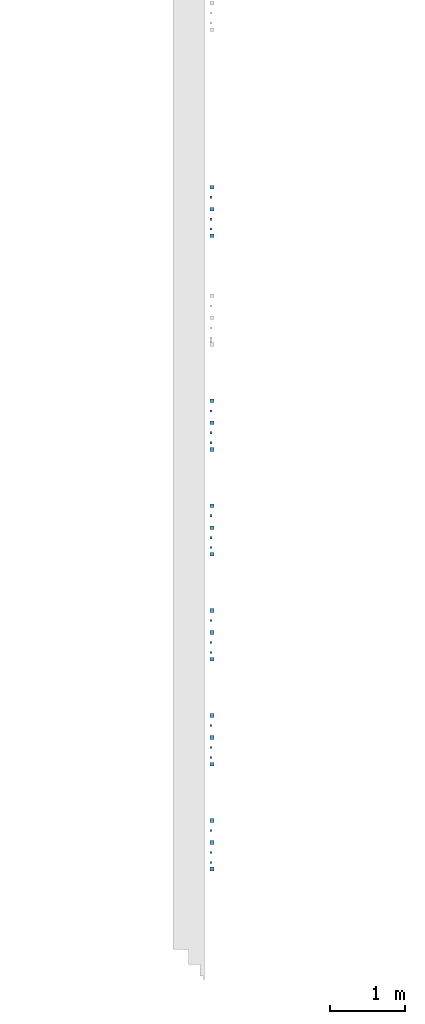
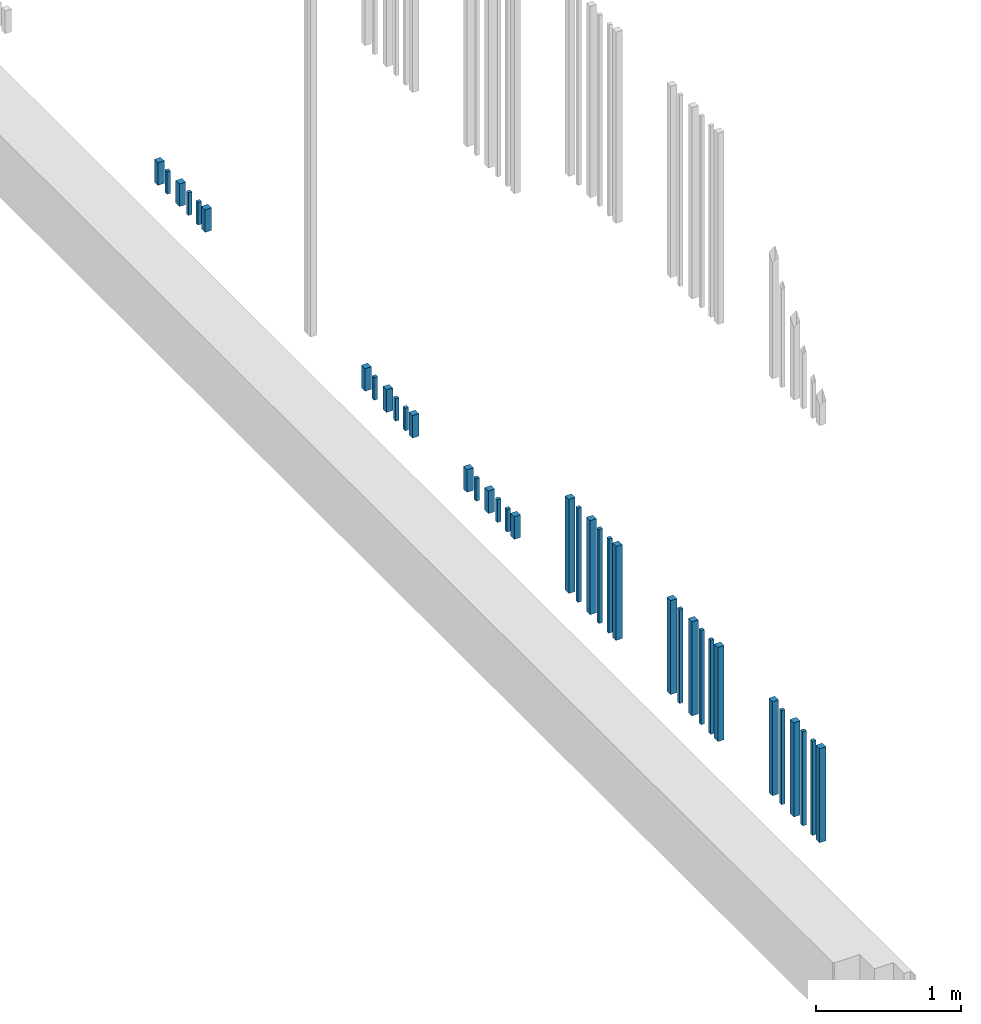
# One storey, part 84 of 124: 36 walls.
"""IFC2X3 building model written with IfcOpenShell, lengths in millimetres."""

from ifc_helpers import new_model, entity, si_unit, converted_unit, derived_unit, money_unit, direction, frame, origin_with_axes, place, context, subcontext, project, spatial, faceted_brep, material, type_object, element, save


model = new_model("IFC2X3")

# Units and contexts
model_context = context("Model", 3, precision=1e-05, world=origin_with_axes(), true_north=direction((0.0, 1.0)))
body_context = subcontext(model_context, "Body", "Model", "MODEL_VIEW")
ifc_project = project(units=[si_unit("LENGTHUNIT", "METRE", prefix="MILLI"), si_unit("AREAUNIT", "SQUARE_METRE"), si_unit("VOLUMEUNIT", "CUBIC_METRE"), converted_unit("PLANEANGLEUNIT", "DEGREE", entity("IfcPlaneAngleMeasure", 0.0174532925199), si_unit("PLANEANGLEUNIT", "RADIAN"), dimensions=[0, 0, 0, 0, 0, 0, 0]), si_unit("SOLIDANGLEUNIT", "STERADIAN"), money_unit("EUR"), converted_unit("TIMEUNIT", "Year", entity("IfcTimeMeasure", 31556926.0), si_unit("TIMEUNIT", "SECOND"), dimensions=[0, 0, 1, 0, 0, 0, 0]), si_unit("MASSUNIT", "GRAM", prefix="KILO"), si_unit("THERMODYNAMICTEMPERATUREUNIT", "DEGREE_CELSIUS"), si_unit("LUMINOUSINTENSITYUNIT", "LUMEN"), si_unit("ENERGYUNIT", "JOULE", prefix="MEGA"), derived_unit("THERMALCONDUCTANCEUNIT", [(si_unit("POWERUNIT", "WATT"), 1), (si_unit("LENGTHUNIT", "METRE"), -1), (si_unit("THERMODYNAMICTEMPERATUREUNIT", "KELVIN"), -1)]), derived_unit("SPECIFICHEATCAPACITYUNIT", [(si_unit("ENERGYUNIT", "JOULE"), 1), (si_unit("MASSUNIT", "GRAM", prefix="KILO"), -1), (si_unit("THERMODYNAMICTEMPERATUREUNIT", "KELVIN"), -1)]), derived_unit("MASSDENSITYUNIT", [(si_unit("MASSUNIT", "GRAM", prefix="KILO"), 1), (si_unit("VOLUMEUNIT", "CUBIC_METRE"), -1)])], contexts=[model_context])

# Site, building, storey
site_placement = place(None, origin_with_axes())
site = spatial("IfcSite", under=ifc_project, at=site_placement, Name="Site", CompositionType="ELEMENT")
building_placement = place(site_placement, origin_with_axes())
building = spatial("IfcBuilding", under=site, at=building_placement, Name="Building", CompositionType="ELEMENT")
storey_placement = place(building_placement, frame((0.0, 0.0, -1615.0), z_axis=(0.0, 0.0, 1.0), x_axis=(1.0, 0.0, 0.0)))
storey = spatial("IfcBuildingStorey", under=building, at=storey_placement, Name="0  korrus", CompositionType="ELEMENT", Elevation=-1615.0)

# Walls
ifc_material = material(Name="Site specified")
wall_type = type_object("IfcWallType", Name="Puitfassaadi ribistik", PredefinedType="NOTDEFINED")
for number, where, z_axis, x_axis, name in (
    (1, (139812.000011, 47180.8062682, 1715.00000015), (0.0, 0.0, 1.0), (5.16795808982e-08, -1.0, 0.0), "Site specified"),
    (2, (139811.999996, 48874.806266, 1715.00000015), (0.0, 0.0, 1.0), (5.16795808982e-08, -1.0, 0.0), "Site specified"),
):
    element("IfcWall", number, at=place(storey_placement, frame(where, z_axis=z_axis, x_axis=x_axis)), inside=storey, type_object=wall_type, material=ifc_material, Name=name, context=body_context, shape_type="Brep", body=[
        faceted_brep([(25.0, 25.0, 790.0), (25.0, 25.0, 0.0), (-25.0, 25.0, 0.0), (-25.0, 25.0, 790.0), (25.0, -25.0, 790.0), (25.0, -25.0, 0.0), (-25.0, -25.0, 0.0), (-25.0, -25.0, 790.0)], [[[0, 1, 2, 3]], [[4, 5, 1, 0]], [[2, 1, 5, 6]], [[3, 2, 6, 7]], [[4, 0, 3, 7]], [[7, 6, 5, 4]]]),
    ])
for number, where, z_axis, x_axis, name in (
    (3, (139801.000003, 48739.803775, 1715.00000015), (0.0, 0.0, 1.0), (5.16795808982e-08, -1.0, 0.0), "Site specified"),
    (4, (139801.000025, 48313.8038047, 1715.00000015), (0.0, 0.0, 1.0), (5.16795808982e-08, -1.0, 0.0), "Site specified"),
    (5, (139801.000018, 48446.8038039, 1715.00000015), (0.0, 0.0, 1.0), (5.16795808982e-08, -1.0, 0.0), "Site specified"),
):
    element("IfcWall", number, at=place(storey_placement, frame(where, z_axis=z_axis, x_axis=x_axis)), inside=storey, type_object=wall_type, material=ifc_material, Name=name, context=body_context, shape_type="Brep", body=[
        faceted_brep([(14.0, 14.0, 790.0), (14.0, 14.0, 0.0), (-14.0, 14.0, 0.0), (-14.0, 14.0, 790.0), (14.0, -14.0, 790.0), (14.0, -14.0, 0.0), (-14.0, -14.0, 0.0), (-14.0, -14.0, 790.0)], [[[0, 1, 2, 3]], [[4, 5, 1, 0]], [[2, 1, 5, 6]], [[3, 2, 6, 7]], [[4, 0, 3, 7]], [[7, 6, 5, 4]]]),
    ])
for number, where, z_axis, x_axis, name in (
    (6, (139812.00003, 48224.8006349, 1715.00000015), (0.0, 0.0, 1.0), (5.16795808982e-08, -1.0, 0.0), "Site specified"),
    (7, (139812.000011, 48580.8062682, 1715.00000015), (0.0, 0.0, 1.0), (5.16795808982e-08, -1.0, 0.0), "Site specified"),
    (8, (139811.999996, 50274.806266, 1715.00000015), (0.0, 0.0, 1.0), (5.16795808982e-08, -1.0, 0.0), "Site specified"),
):
    element("IfcWall", number, at=place(storey_placement, frame(where, z_axis=z_axis, x_axis=x_axis)), inside=storey, type_object=wall_type, material=ifc_material, Name=name, context=body_context, shape_type="Brep", body=[
        faceted_brep([(25.0, 25.0, 790.0), (25.0, 25.0, 0.0), (-25.0, 25.0, 0.0), (-25.0, 25.0, 790.0), (25.0, -25.0, 790.0), (25.0, -25.0, 0.0), (-25.0, -25.0, 0.0), (-25.0, -25.0, 790.0)], [[[0, 1, 2, 3]], [[4, 5, 1, 0]], [[2, 1, 5, 6]], [[3, 2, 6, 7]], [[4, 0, 3, 7]], [[7, 6, 5, 4]]]),
    ])
for number, where, z_axis, x_axis, name in (
    (9, (139801.000003, 50139.803775, 1715.00000015), (0.0, 0.0, 1.0), (5.16795808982e-08, -1.0, 0.0), "Site specified"),
    (10, (139801.000025, 49713.8038047, 1715.00000015), (0.0, 0.0, 1.0), (5.16795808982e-08, -1.0, 0.0), "Site specified"),
    (11, (139801.000018, 49846.8038039, 1715.00000015), (0.0, 0.0, 1.0), (5.16795808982e-08, -1.0, 0.0), "Site specified"),
):
    element("IfcWall", number, at=place(storey_placement, frame(where, z_axis=z_axis, x_axis=x_axis)), inside=storey, type_object=wall_type, material=ifc_material, Name=name, context=body_context, shape_type="Brep", body=[
        faceted_brep([(14.0, 14.0, 790.0), (14.0, 14.0, 0.0), (-14.0, 14.0, 0.0), (-14.0, 14.0, 790.0), (14.0, -14.0, 790.0), (14.0, -14.0, 0.0), (-14.0, -14.0, 0.0), (-14.0, -14.0, 790.0)], [[[0, 1, 2, 3]], [[4, 5, 1, 0]], [[2, 1, 5, 6]], [[3, 2, 6, 7]], [[4, 0, 3, 7]], [[7, 6, 5, 4]]]),
    ])
for number, where, z_axis, x_axis, name in (
    (12, (139812.000029, 49624.8006349, 1715.00000015), (0.0, 0.0, 1.0), (5.16795808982e-08, -1.0, 0.0), "Site specified"),
    (13, (139812.000011, 49980.8062682, 1715.00000015), (0.0, 0.0, 1.0), (5.16795808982e-08, -1.0, 0.0), "Site specified"),
):
    element("IfcWall", number, at=place(storey_placement, frame(where, z_axis=z_axis, x_axis=x_axis)), inside=storey, type_object=wall_type, material=ifc_material, Name=name, context=body_context, shape_type="Brep", body=[
        faceted_brep([(25.0, 25.0, 790.0), (25.0, 25.0, 0.0), (-25.0, 25.0, 0.0), (-25.0, 25.0, 790.0), (25.0, -25.0, 790.0), (25.0, -25.0, 0.0), (-25.0, -25.0, 0.0), (-25.0, -25.0, 790.0)], [[[0, 1, 2, 3]], [[4, 5, 1, 0]], [[2, 1, 5, 6]], [[3, 2, 6, 7]], [[4, 0, 3, 7]], [[7, 6, 5, 4]]]),
    ])
wall_1_placement = place(storey_placement, frame((139811.999995, 51674.806266, 1715.00000015), z_axis=(0.0, 0.0, 1.0), x_axis=(5.16795808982e-08, -1.0, 0.0)))
element("IfcWall", 14, at=wall_1_placement, inside=storey, type_object=wall_type, material=ifc_material, Name="Site specified", context=body_context, shape_type="Brep", body=[
    faceted_brep([(25.0, 25.0, 190.0), (25.0, 25.0, 0.0), (-25.0, 25.0, 0.0), (-25.0, 25.0, 190.0), (25.0, -25.0, 190.0), (25.0, -25.0, 0.0), (-25.0, -25.0, 0.0), (-25.0, -25.0, 190.0)], [[[0, 1, 2, 3]], [[4, 5, 1, 0]], [[2, 1, 5, 6]], [[3, 2, 6, 7]], [[4, 0, 3, 7]], [[7, 6, 5, 4]]]),
])
for number, where, z_axis, x_axis, name in (
    (15, (139801.000002, 51539.803775, 1715.00000015), (0.0, 0.0, 1.0), (5.16795808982e-08, -1.0, 0.0), "Site specified"),
    (16, (139801.000024, 51113.8038047, 1715.00000015), (0.0, 0.0, 1.0), (5.16795808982e-08, -1.0, 0.0), "Site specified"),
    (17, (139801.000018, 51246.8038039, 1715.00000015), (0.0, 0.0, 1.0), (5.16795808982e-08, -1.0, 0.0), "Site specified"),
):
    element("IfcWall", number, at=place(storey_placement, frame(where, z_axis=z_axis, x_axis=x_axis)), inside=storey, type_object=wall_type, material=ifc_material, Name=name, context=body_context, shape_type="Brep", body=[
        faceted_brep([(14.0, 14.0, 190.0), (14.0, 14.0, 0.0), (-14.0, 14.0, 0.0), (-14.0, 14.0, 190.0), (14.0, -14.0, 190.0), (14.0, -14.0, 0.0), (-14.0, -14.0, 0.0), (-14.0, -14.0, 190.0)], [[[0, 1, 2, 3]], [[4, 5, 1, 0]], [[2, 1, 5, 6]], [[3, 2, 6, 7]], [[4, 0, 3, 7]], [[7, 6, 5, 4]]]),
    ])
for number, where, z_axis, x_axis, name in (
    (18, (139812.000029, 51024.8006349, 1715.00000015), (0.0, 0.0, 1.0), (5.16795808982e-08, -1.0, 0.0), "Site specified"),
    (19, (139812.000011, 51380.8062682, 1715.00000015), (0.0, 0.0, 1.0), (5.16795808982e-08, -1.0, 0.0), "Site specified"),
    (20, (139811.999996, 53074.806266, 1715.00000015), (0.0, 0.0, 1.0), (5.16795808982e-08, -1.0, 0.0), "Site specified"),
):
    element("IfcWall", number, at=place(storey_placement, frame(where, z_axis=z_axis, x_axis=x_axis)), inside=storey, type_object=wall_type, material=ifc_material, Name=name, context=body_context, shape_type="Brep", body=[
        faceted_brep([(25.0, 25.0, 190.0), (25.0, 25.0, 0.0), (-25.0, 25.0, 0.0), (-25.0, 25.0, 190.0), (25.0, -25.0, 190.0), (25.0, -25.0, 0.0), (-25.0, -25.0, 0.0), (-25.0, -25.0, 190.0)], [[[0, 1, 2, 3]], [[4, 5, 1, 0]], [[2, 1, 5, 6]], [[3, 2, 6, 7]], [[4, 0, 3, 7]], [[7, 6, 5, 4]]]),
    ])
for number, where, z_axis, x_axis, name in (
    (21, (139801.000003, 52939.803775, 1715.00000015), (0.0, 0.0, 1.0), (5.16795808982e-08, -1.0, 0.0), "Site specified"),
    (22, (139801.000025, 52513.8038047, 1715.00000015), (0.0, 0.0, 1.0), (5.16795808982e-08, -1.0, 0.0), "Site specified"),
    (23, (139801.000018, 52646.8038039, 1715.00000015), (0.0, 0.0, 1.0), (5.16795808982e-08, -1.0, 0.0), "Site specified"),
):
    element("IfcWall", number, at=place(storey_placement, frame(where, z_axis=z_axis, x_axis=x_axis)), inside=storey, type_object=wall_type, material=ifc_material, Name=name, context=body_context, shape_type="Brep", body=[
        faceted_brep([(14.0, 14.0, 190.0), (14.0, 14.0, 0.0), (-14.0, 14.0, 0.0), (-14.0, 14.0, 190.0), (14.0, -14.0, 190.0), (14.0, -14.0, 0.0), (-14.0, -14.0, 0.0), (-14.0, -14.0, 190.0)], [[[0, 1, 2, 3]], [[4, 5, 1, 0]], [[2, 1, 5, 6]], [[3, 2, 6, 7]], [[4, 0, 3, 7]], [[7, 6, 5, 4]]]),
    ])
for number, where, z_axis, x_axis, name in (
    (24, (139812.000029, 52424.8006349, 1715.00000015), (0.0, 0.0, 1.0), (5.16795808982e-08, -1.0, 0.0), "Site specified"),
    (25, (139812.000011, 52780.8062682, 1715.00000015), (0.0, 0.0, 1.0), (5.16795808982e-08, -1.0, 0.0), "Site specified"),
):
    element("IfcWall", number, at=place(storey_placement, frame(where, z_axis=z_axis, x_axis=x_axis)), inside=storey, type_object=wall_type, material=ifc_material, Name=name, context=body_context, shape_type="Brep", body=[
        faceted_brep([(25.0, 25.0, 190.0), (25.0, 25.0, 0.0), (-25.0, 25.0, 0.0), (-25.0, 25.0, 190.0), (25.0, -25.0, 190.0), (25.0, -25.0, 0.0), (-25.0, -25.0, 0.0), (-25.0, -25.0, 190.0)], [[[0, 1, 2, 3]], [[4, 5, 1, 0]], [[2, 1, 5, 6]], [[3, 2, 6, 7]], [[4, 0, 3, 7]], [[7, 6, 5, 4]]]),
    ])
for number, where, z_axis, x_axis, name in (
    (26, (139801.000018, 47046.8038039, 1715.00000015), (0.0, 0.0, 1.0), (5.16795808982e-08, -1.0, 0.0), "Site specified"),
    (27, (139801.000025, 46913.8038047, 1715.00000015), (0.0, 0.0, 1.0), (5.16795808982e-08, -1.0, 0.0), "Site specified"),
    (28, (139801.000003, 47339.803775, 1715.00000015), (0.0, 0.0, 1.0), (5.16795808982e-08, -1.0, 0.0), "Site specified"),
):
    element("IfcWall", number, at=place(storey_placement, frame(where, z_axis=z_axis, x_axis=x_axis)), inside=storey, type_object=wall_type, material=ifc_material, Name=name, context=body_context, shape_type="Brep", body=[
        faceted_brep([(14.0, 14.0, 790.0), (14.0, 14.0, 0.0), (-14.0, 14.0, 0.0), (-14.0, 14.0, 790.0), (14.0, -14.0, 790.0), (14.0, -14.0, 0.0), (-14.0, -14.0, 0.0), (-14.0, -14.0, 790.0)], [[[0, 1, 2, 3]], [[4, 5, 1, 0]], [[2, 1, 5, 6]], [[3, 2, 6, 7]], [[4, 0, 3, 7]], [[7, 6, 5, 4]]]),
    ])
for number, where, z_axis, x_axis, name in (
    (29, (139811.999996, 47474.806266, 1715.00000015), (0.0, 0.0, 1.0), (5.16795808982e-08, -1.0, 0.0), "Site specified"),
    (30, (139812.000029, 46824.8006349, 1715.00000015), (0.0, 0.0, 1.0), (5.16795808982e-08, -1.0, 0.0), "Site specified"),
):
    element("IfcWall", number, at=place(storey_placement, frame(where, z_axis=z_axis, x_axis=x_axis)), inside=storey, type_object=wall_type, material=ifc_material, Name=name, context=body_context, shape_type="Brep", body=[
        faceted_brep([(25.0, 25.0, 790.0), (25.0, 25.0, 0.0), (-25.0, 25.0, 0.0), (-25.0, 25.0, 790.0), (25.0, -25.0, 790.0), (25.0, -25.0, 0.0), (-25.0, -25.0, 0.0), (-25.0, -25.0, 790.0)], [[[0, 1, 2, 3]], [[4, 5, 1, 0]], [[2, 1, 5, 6]], [[3, 2, 6, 7]], [[4, 0, 3, 7]], [[7, 6, 5, 4]]]),
    ])
wall_2_placement = place(storey_placement, frame((139811.999995, 55924.8062666, 1715.00000015), z_axis=(0.0, 0.0, 1.0), x_axis=(5.16795808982e-08, -1.0, 0.0)))
element("IfcWall", 31, at=wall_2_placement, inside=storey, type_object=wall_type, material=ifc_material, Name="Site specified", context=body_context, shape_type="Brep", body=[
    faceted_brep([(25.0, 25.0, 190.0), (25.0, 25.0, 0.0), (-25.0, 25.0, 0.0), (-25.0, 25.0, 190.0), (25.0, -25.0, 190.0), (25.0, -25.0, 0.0), (-25.0, -25.0, 0.0), (-25.0, -25.0, 190.0)], [[[0, 1, 2, 3]], [[4, 5, 1, 0]], [[2, 1, 5, 6]], [[3, 2, 6, 7]], [[4, 0, 3, 7]], [[7, 6, 5, 4]]]),
])
for number, where, z_axis, x_axis, name in (
    (32, (139801.000002, 55789.8037755, 1715.00000015), (0.0, 0.0, 1.0), (5.16795808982e-08, -1.0, 0.0), "Site specified"),
    (33, (139801.000024, 55363.8038053, 1715.00000015), (0.0, 0.0, 1.0), (5.16795808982e-08, -1.0, 0.0), "Site specified"),
    (34, (139801.000018, 55496.8038044, 1715.00000015), (0.0, 0.0, 1.0), (5.16795808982e-08, -1.0, 0.0), "Site specified"),
):
    element("IfcWall", number, at=place(storey_placement, frame(where, z_axis=z_axis, x_axis=x_axis)), inside=storey, type_object=wall_type, material=ifc_material, Name=name, context=body_context, shape_type="Brep", body=[
        faceted_brep([(14.0, 14.0, 190.0), (14.0, 14.0, 0.0), (-14.0, 14.0, 0.0), (-14.0, 14.0, 190.0), (14.0, -14.0, 190.0), (14.0, -14.0, 0.0), (-14.0, -14.0, 0.0), (-14.0, -14.0, 190.0)], [[[0, 1, 2, 3]], [[4, 5, 1, 0]], [[2, 1, 5, 6]], [[3, 2, 6, 7]], [[4, 0, 3, 7]], [[7, 6, 5, 4]]]),
    ])
for number, where, z_axis, x_axis, name in (
    (35, (139812.000029, 55274.8006354, 1715.00000015), (0.0, 0.0, 1.0), (5.16795808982e-08, -1.0, 0.0), "Site specified"),
    (36, (139812.000011, 55630.8062688, 1715.00000015), (0.0, 0.0, 1.0), (5.16795808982e-08, -1.0, 0.0), "Site specified"),
):
    element("IfcWall", number, at=place(storey_placement, frame(where, z_axis=z_axis, x_axis=x_axis)), inside=storey, type_object=wall_type, material=ifc_material, Name=name, context=body_context, shape_type="Brep", body=[
        faceted_brep([(25.0, 25.0, 190.0), (25.0, 25.0, 0.0), (-25.0, 25.0, 0.0), (-25.0, 25.0, 190.0), (25.0, -25.0, 190.0), (25.0, -25.0, 0.0), (-25.0, -25.0, 0.0), (-25.0, -25.0, 190.0)], [[[0, 1, 2, 3]], [[4, 5, 1, 0]], [[2, 1, 5, 6]], [[3, 2, 6, 7]], [[4, 0, 3, 7]], [[7, 6, 5, 4]]]),
    ])

save(model, "model.ifc")
